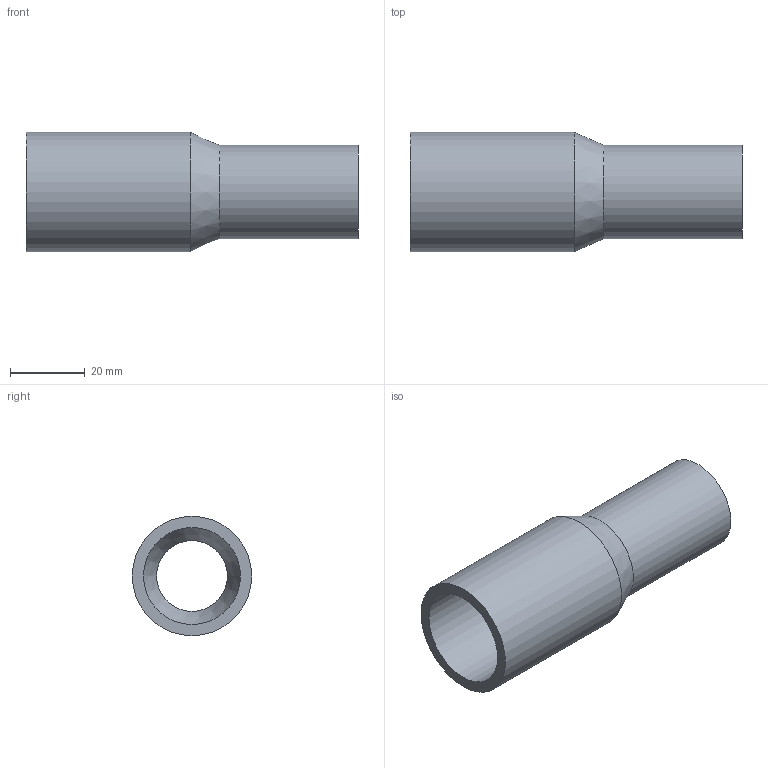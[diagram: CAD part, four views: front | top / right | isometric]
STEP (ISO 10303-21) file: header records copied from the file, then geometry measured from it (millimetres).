
FILE_DESCRIPTION(('Beschreibung'),'1');
FILE_NAME('V:/Ziel/25.91.03.103_SDR_11_PE100_032_025.STP', '2014-09-15T06:28:47',('Author'), ('Organization'), 'KCM Version 1.1.794.0', 'Kubotek KeyCreator', 'Authorization');
FILE_SCHEMA(('CONFIG_CONTROL_DESIGN'));
Length unit declared in the file: millimetre
Bounding box: 89 x 32 x 32 mm (x, y, z)
Volume: 21775.7 mm3; surface area: 14997.8 mm2
Topology: 1 solids, 1 shells, 8 faces, 22 edges, 24 vertices
Faces by surface type: cylinder 4, cone 2, plane 2
Full cylindrical faces by diameter (mm): 19 x1, 25 x1, 26 x1, 32 x1
Entity records: 321 total; most frequent: DIRECTION 48, CARTESIAN_POINT 39, ORIENTED_EDGE 28, AXIS2_PLACEMENT_3D 17, EDGE_CURVE 14, VECTOR 14, LINE 14, EDGE_LOOP 10
